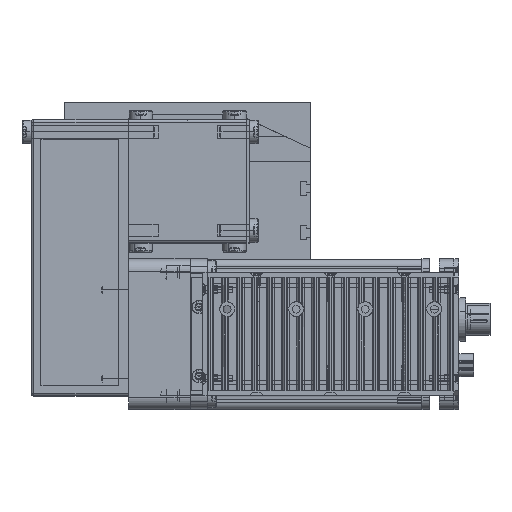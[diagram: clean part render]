
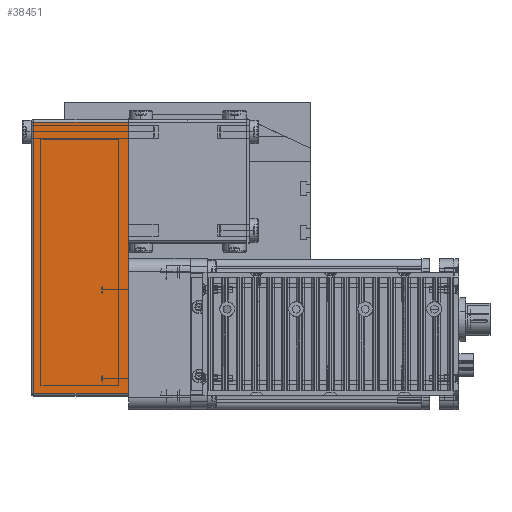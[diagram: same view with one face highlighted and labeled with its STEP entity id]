
A CAD part, top view. The second image highlights one B-rep face of the part: STEP entity #38451.
In plain terms, the highlighted planar face has unit normal (0, 0, 1) as drawn and (0, 1, 0) by its records, which use the part's own axes.
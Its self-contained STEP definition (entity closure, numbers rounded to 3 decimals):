
#5313 = AXIS2_PLACEMENT_3D ( 'NONE', #5838, #6055, #19377 ) ;
#5323 = PLANE ( 'NONE',  #5313 ) ;
#5838 = CARTESIAN_POINT ( 'NONE',  ( -50., 25., 39.5 ) ) ;
#6055 = DIRECTION ( 'NONE',  ( 0., -1., 0. ) ) ;
#19377 = DIRECTION ( 'NONE',  ( 0., 0., -1. ) ) ;
#19584 = CARTESIAN_POINT ( 'NONE',  ( -49., 25., 38.5 ) ) ;
#19593 = CARTESIAN_POINT ( 'NONE',  ( -49., 25., 39.5 ) ) ;
#19594 = LINE ( 'NONE', #19593, #19635 ) ;
#19634 = DIRECTION ( 'NONE',  ( 0., 0., -1. ) ) ;
#19635 = VECTOR ( 'NONE', #19634, 1000. ) ;
#19640 = CARTESIAN_POINT ( 'NONE',  ( -49., 25., 0. ) ) ;
#19678 = CARTESIAN_POINT ( 'NONE',  ( 61., 25., 38.5 ) ) ;
#19716 = DIRECTION ( 'NONE',  ( 0., 0., 1. ) ) ;
#19717 = VECTOR ( 'NONE', #19716, 1000. ) ;
#19718 = CARTESIAN_POINT ( 'NONE',  ( 61., 25., 39.5 ) ) ;
#19724 = LINE ( 'NONE', #19718, #19717 ) ;
#19727 = CARTESIAN_POINT ( 'NONE',  ( 61., 25., 0. ) ) ;
#19875 = CARTESIAN_POINT ( 'NONE',  ( -50., 25., 38.5 ) ) ;
#19910 = DIRECTION ( 'NONE',  ( -1., 0., 0. ) ) ;
#19911 = VECTOR ( 'NONE', #19910, 1000. ) ;
#19919 = LINE ( 'NONE', #19875, #19911 ) ;
#19957 = DIRECTION ( 'NONE',  ( -1., 0., 0. ) ) ;
#19958 = VECTOR ( 'NONE', #19957, 1000. ) ;
#19974 = FACE_OUTER_BOUND ( 'NONE', #38434, .T. ) ;
#19995 = CARTESIAN_POINT ( 'NONE',  ( -50., 25., 0. ) ) ;
#19996 = LINE ( 'NONE', #19995, #19958 ) ;
#38008 = VERTEX_POINT ( 'NONE', #19584 ) ;
#38094 = EDGE_CURVE ( 'NONE', #38008, #38101, #19594, .T. ) ;
#38101 = VERTEX_POINT ( 'NONE', #19640 ) ;
#38130 = VERTEX_POINT ( 'NONE', #19727 ) ;
#38132 = VERTEX_POINT ( 'NONE', #19678 ) ;
#38141 = EDGE_CURVE ( 'NONE', #38130, #38132, #19724, .T. ) ;
#38375 = EDGE_CURVE ( 'NONE', #38132, #38008, #19919, .T. ) ;
#38434 = EDGE_LOOP ( 'NONE', ( #38453, #38456, #38515, #38468 ) ) ;
#38451 = ADVANCED_FACE ( 'NONE', ( #19974 ), #5323, .F. ) ;
#38452 = EDGE_CURVE ( 'NONE', #38130, #38101, #19996, .T. ) ;
#38453 = ORIENTED_EDGE ( 'NONE', *, *, #38094, .F. ) ;
#38456 = ORIENTED_EDGE ( 'NONE', *, *, #38375, .F. ) ;
#38468 = ORIENTED_EDGE ( 'NONE', *, *, #38452, .T. ) ;
#38515 = ORIENTED_EDGE ( 'NONE', *, *, #38141, .F. ) ;
